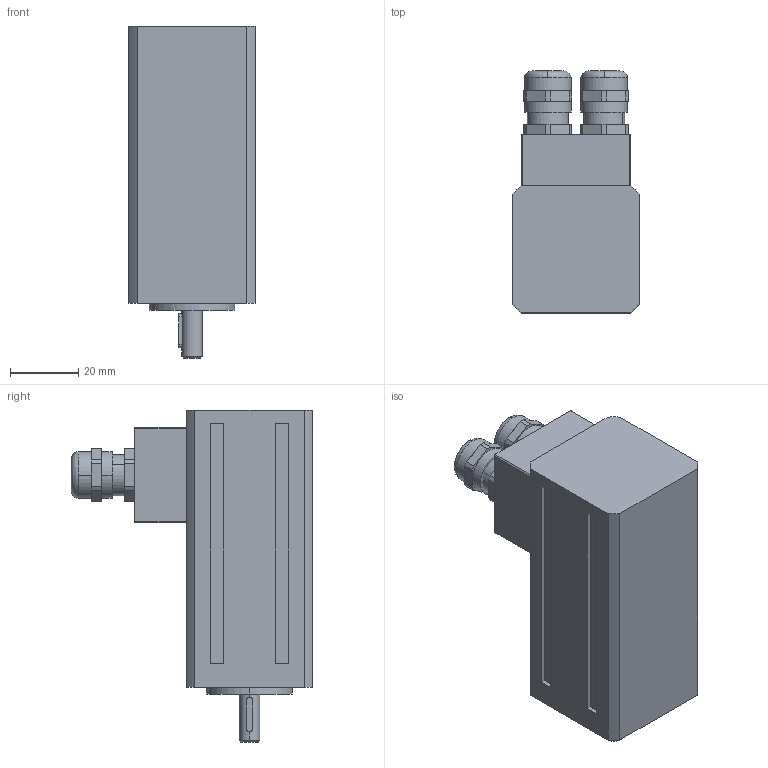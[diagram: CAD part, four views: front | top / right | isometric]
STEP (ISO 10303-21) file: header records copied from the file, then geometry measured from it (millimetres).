
FILE_DESCRIPTION(('STEP AP203'),'2;1');
FILE_NAME('MT1-0010.stp','2006-08-28T17:29:19',(''),(''),'2005.2.102','THINKDESIGN','');
FILE_SCHEMA(('CONFIG_CONTROL_DESIGN'));
Length unit declared in the file: millimetre
Bounding box: 37 x 70.6 x 97 mm (x, y, z)
Volume: 125012.3 mm3; surface area: 22932.2 mm2
Topology: 5 solids, 5 shells, 192 faces, 461 edges, 298 vertices
Faces by surface type: plane 82, cylinder 66, bspline 44
Entity records: 5950 total; most frequent: CARTESIAN_POINT 1399, DIRECTION 939, ORIENTED_EDGE 906, EDGE_CURVE 453, AXIS2_PLACEMENT_3D 342, VERTEX_POINT 298, VECTOR 255, LINE 255
